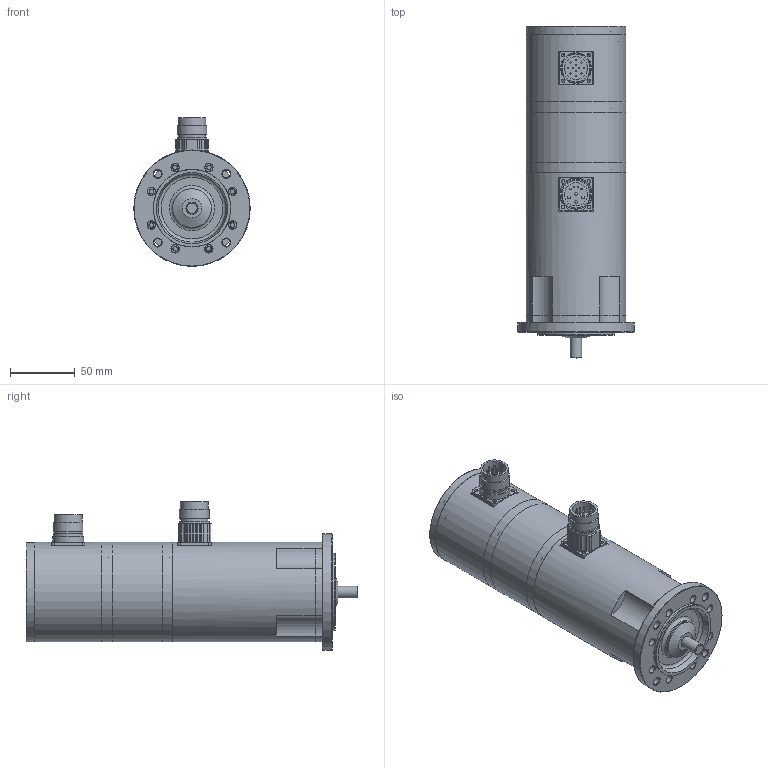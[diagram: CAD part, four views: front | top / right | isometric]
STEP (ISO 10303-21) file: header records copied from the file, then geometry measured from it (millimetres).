
FILE_DESCRIPTION(/* description */ (''),/* implementation_level */ '2;1');
FILE_NAME(/* name */ 'ksa_2x4e_mc_ixx',/* time_stamp */ '2007-03-13T08:40:39+01:00',/* author */ (''),/* organization */ (''),/* preprocessor_version */ 'ST-DEVELOPER v8',/* originating_system */ 'UNIGRAPHICS SOLUTIONS - UNIGRAPHICS 18.0',/* authorisation */ '');
FILE_SCHEMA (('AUTOMOTIVE_DESIGN { 1 2 10303 214 0 1 1 1 }'));
Length unit declared in the file: millimetre
Products named in the file (12): 014261_0; 064281_0; 089274_0; 089282_0; 112082_0; 014260_0; 06331002_0; DIN3760_org_A12x24x7_0; Rotor_SA 24.. E_0; Gehaeuse_SA 24.. E_0; 112068_0; KSA246_E-MC-I27_0
Assembly tree (12 placements, depth 2):
  KSA246_E-MC-I27_0
    112068_0
    Gehaeuse_SA 24.. E_0
    Rotor_SA 24.. E_0
    DIN3760_org_A12x24x7_0
    06331002_0
    014260_0
    112082_0  x2
    089282_0
    089274_0
    064281_0
    014261_0
Bounding box: 90 x 256.5 x 115 mm (x, y, z)
Volume: 577756.8 mm3; surface area: 183869 mm2
Topology: 12 solids, 12 shells, 501 faces, 1213 edges, 781 vertices
Faces by surface type: cylinder 247, plane 122, cone 91, torus 21, sphere 20
Full cylindrical faces by diameter (mm): 1 x16, 2 x4, 2.135 x4, 2.7 x8, 3.013 x14, 3.4 x16, 4 x2, 4.5 x16, 6 x12, 6.5 x8, 7 x2, 8 x16, 8.52 x1, 8.9 x1, 9 x1, 12 x2, 12.3 x1, 15 x2, 18 x2, 20 x6, 21 x3, 21.5 x2, 23 x5, 24 x3, 26 x2, 28 x1, 30 x2, 52 x1, 56 x2, 57 x3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
Entity records: 11172 total; most frequent: DIRECTION 2094, CARTESIAN_POINT 1797, ORIENTED_EDGE 1336, AXIS2_PLACEMENT_3D 988, EDGE_LOOP 847, EDGE_CURVE 668, FACE_BOUND 580, VERTEX_POINT 573
